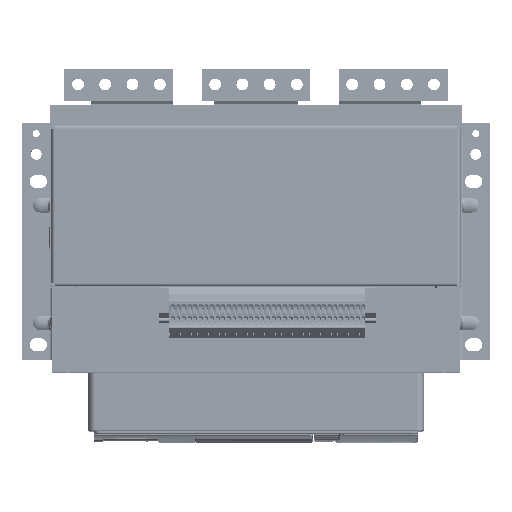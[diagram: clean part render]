
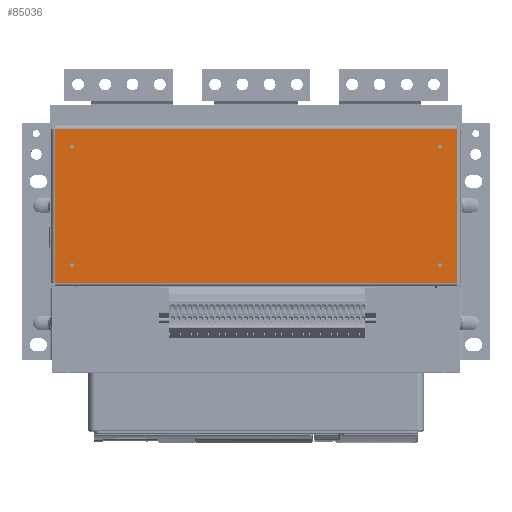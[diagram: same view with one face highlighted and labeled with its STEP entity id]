
A CAD part, top view. The second image highlights one B-rep face of the part: STEP entity #85036.
In plain terms, the highlighted planar face has unit normal (0, 0, 1) as drawn and (0, -1, 0) by its records, which use the part's own axes.
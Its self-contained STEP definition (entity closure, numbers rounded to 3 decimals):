
#3759=FACE_BOUND('',#10053,.T.);
#3760=FACE_BOUND('',#10054,.T.);
#3761=FACE_BOUND('',#10055,.T.);
#3762=FACE_BOUND('',#10056,.T.);
#5305=FACE_OUTER_BOUND('',#10052,.T.);
#10052=EDGE_LOOP('',(#60768,#60769,#60770,#60771));
#10053=EDGE_LOOP('',(#60772));
#10054=EDGE_LOOP('',(#60773));
#10055=EDGE_LOOP('',(#60774));
#10056=EDGE_LOOP('',(#60775));
#14817=CIRCLE('',#90732,1.75);
#14818=CIRCLE('',#90733,1.75);
#14819=CIRCLE('',#90734,1.75);
#14820=CIRCLE('',#90735,1.75);
#19243=LINE('',#129948,#27887);
#19244=LINE('',#129953,#27888);
#19245=LINE('',#129955,#27889);
#19246=LINE('',#129956,#27890);
#27887=VECTOR('',#102022,142.);
#27888=VECTOR('',#102029,370.);
#27889=VECTOR('',#102030,142.);
#27890=VECTOR('',#102031,370.);
#36328=VERTEX_POINT('',#129946);
#36329=VERTEX_POINT('',#129947);
#36330=VERTEX_POINT('',#129952);
#36331=VERTEX_POINT('',#129954);
#36332=VERTEX_POINT('',#129957);
#36333=VERTEX_POINT('',#129959);
#36334=VERTEX_POINT('',#129961);
#36335=VERTEX_POINT('',#129963);
#45460=EDGE_CURVE('',#36328,#36329,#19243,.T.);
#45463=EDGE_CURVE('',#36329,#36330,#19244,.T.);
#45464=EDGE_CURVE('',#36331,#36330,#19245,.T.);
#45465=EDGE_CURVE('',#36331,#36328,#19246,.T.);
#45466=EDGE_CURVE('',#36332,#36332,#14817,.T.);
#45467=EDGE_CURVE('',#36333,#36333,#14818,.T.);
#45468=EDGE_CURVE('',#36334,#36334,#14819,.T.);
#45469=EDGE_CURVE('',#36335,#36335,#14820,.T.);
#60768=ORIENTED_EDGE('',*,*,#45460,.T.);
#60769=ORIENTED_EDGE('',*,*,#45463,.T.);
#60770=ORIENTED_EDGE('',*,*,#45464,.F.);
#60771=ORIENTED_EDGE('',*,*,#45465,.T.);
#60772=ORIENTED_EDGE('',*,*,#45466,.F.);
#60773=ORIENTED_EDGE('',*,*,#45467,.F.);
#60774=ORIENTED_EDGE('',*,*,#45468,.F.);
#60775=ORIENTED_EDGE('',*,*,#45469,.F.);
#81259=PLANE('',#90731);
#85036=ADVANCED_FACE('',(#5305,#3759,#3760,#3761,#3762),#81259,.F.);
#90731=AXIS2_PLACEMENT_3D('',#129951,#102027,#102028);
#90732=AXIS2_PLACEMENT_3D('',#129958,#102032,#102033);
#90733=AXIS2_PLACEMENT_3D('',#129960,#102034,#102035);
#90734=AXIS2_PLACEMENT_3D('',#129962,#102036,#102037);
#90735=AXIS2_PLACEMENT_3D('',#129964,#102038,#102039);
#102022=DIRECTION('',(0.,0.,1.));
#102027=DIRECTION('center_axis',(0.,1.,0.));
#102028=DIRECTION('ref_axis',(1.,0.,0.));
#102029=DIRECTION('',(-1.,0.,0.));
#102030=DIRECTION('',(0.,0.,1.));
#102031=DIRECTION('',(1.,0.,0.));
#102032=DIRECTION('center_axis',(0.,-1.,0.));
#102033=DIRECTION('ref_axis',(1.,0.,0.));
#102034=DIRECTION('center_axis',(0.,-1.,0.));
#102035=DIRECTION('ref_axis',(1.,0.,0.));
#102036=DIRECTION('center_axis',(0.,-1.,0.));
#102037=DIRECTION('ref_axis',(1.,0.,0.));
#102038=DIRECTION('center_axis',(0.,-1.,0.));
#102039=DIRECTION('ref_axis',(1.,0.,0.));
#129946=CARTESIAN_POINT('',(185.,-79.,-71.));
#129947=CARTESIAN_POINT('',(185.,-79.,71.));
#129948=CARTESIAN_POINT('',(185.,-79.,-71.));
#129951=CARTESIAN_POINT('Origin',(0.,-79.,0.));
#129952=CARTESIAN_POINT('',(-185.,-79.,71.));
#129953=CARTESIAN_POINT('',(185.,-79.,71.));
#129954=CARTESIAN_POINT('',(-185.,-79.,-71.));
#129955=CARTESIAN_POINT('',(-185.,-79.,-71.));
#129956=CARTESIAN_POINT('',(-185.,-79.,-71.));
#129957=CARTESIAN_POINT('',(167.25,-79.,54.5));
#129958=CARTESIAN_POINT('Origin',(169.,-79.,54.5));
#129959=CARTESIAN_POINT('',(167.25,-79.,-54.5));
#129960=CARTESIAN_POINT('Origin',(169.,-79.,-54.5));
#129961=CARTESIAN_POINT('',(-170.75,-79.,-54.5));
#129962=CARTESIAN_POINT('Origin',(-169.,-79.,-54.5));
#129963=CARTESIAN_POINT('',(-170.75,-79.,54.5));
#129964=CARTESIAN_POINT('Origin',(-169.,-79.,54.5));
